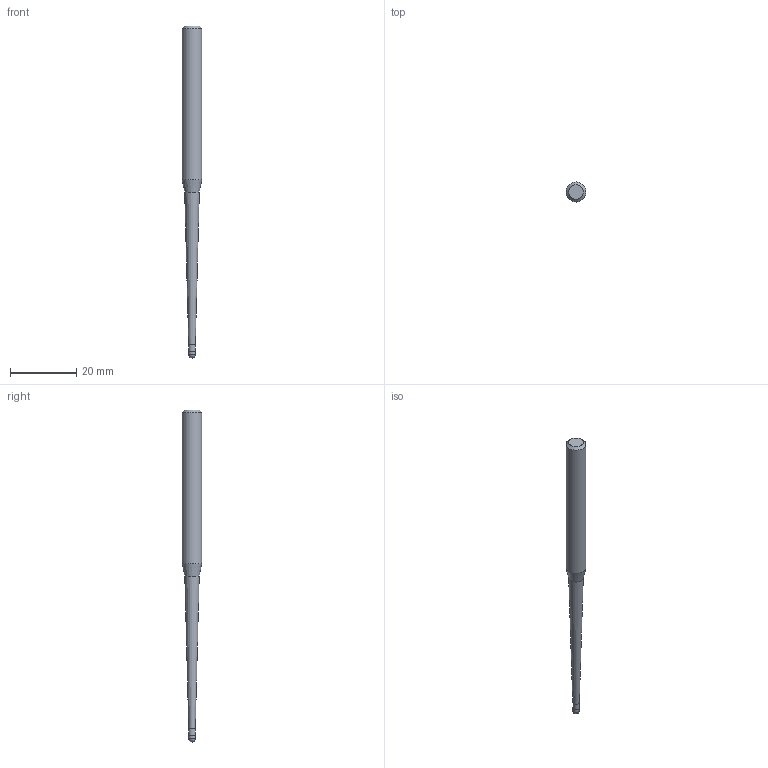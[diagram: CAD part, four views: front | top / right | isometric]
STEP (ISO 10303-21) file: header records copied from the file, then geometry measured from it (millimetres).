
FILE_DESCRIPTION((''),'2;1');
FILE_NAME('C:\Users\nsx150\AppData\Local\Temp\Mastercam 2021\SNAKH10GOD\TEMP.step','2021-10-21T13:33:13',(''),(''),'STEP Write','Mastercam 2021 ... CNC Software, Inc.','');
FILE_SCHEMA(('AUTOMOTIVE_DESIGN'));
Length unit declared in the file: millimetre
Products named in the file (1): None
Bounding box: 6 x 6 x 100 mm (x, y, z)
Volume: 1781.2 mm3; surface area: 1446.6 mm2
Topology: 2 solids, 2 shells, 10 faces, 16 edges, 9 vertices
Faces by surface type: plane 3, cylinder 3, cone 3, sphere 1
Full cylindrical faces by diameter (mm): 1.985 x1, 2 x1, 6 x1
Entity records: 232 total; most frequent: DIRECTION 40, CARTESIAN_POINT 28, AXIS2_PLACEMENT_3D 20, ORIENTED_EDGE 16, EDGE_LOOP 16, STYLED_ITEM 13, ADVANCED_FACE 10, FACE_BOUND 9
